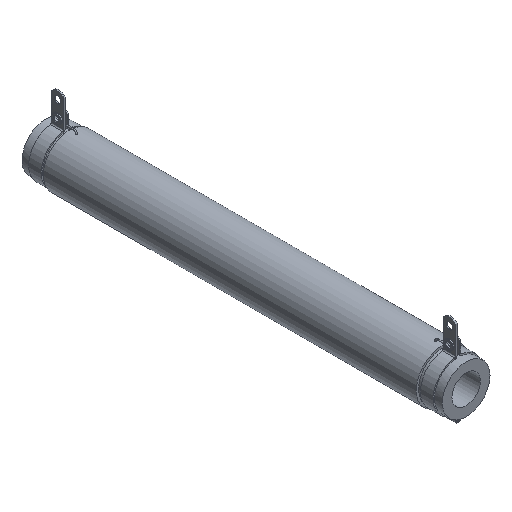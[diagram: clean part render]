
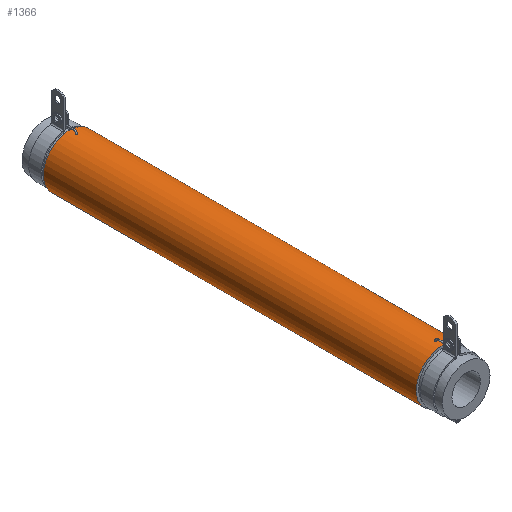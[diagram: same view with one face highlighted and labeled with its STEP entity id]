
A CAD part, isometric view. The second image highlights one B-rep face of the part: STEP entity #1366.
In plain terms, the highlighted cylindrical face has radius 16.5 mm (diameter 33 mm), a full revolution.
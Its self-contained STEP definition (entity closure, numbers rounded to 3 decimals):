
#147=B_SPLINE_CURVE_WITH_KNOTS($,3,(#2087,#2088,#2089,#2090,#2091,#2092,
#2093,#2094,#2095,#2096,#2097,#2098,#2099,#2100,#2101,#2102,#2103,#2104,
#2105,#2106,#2107,#2108,#2109,#2110,#2111,#2112,#2113,#2114,#2115,#2116,
#2117,#2118,#2119,#2120,#2121,#2122),.UNSPECIFIED.,.T.,.F.,(4,2,2,2,2,2,
2,2,2,2,2,2,2,2,2,2,2,4),(0.,0.016,0.031,0.047,
0.063,0.079,0.095,0.11,
0.126,0.141,0.157,0.172,
0.189,0.204,0.22,0.236,
0.245,0.254),.UNSPECIFIED.);
#148=B_SPLINE_CURVE_WITH_KNOTS($,3,(#2124,#2125,#2126,#2127,#2128,#2129,
#2130,#2131,#2132,#2133,#2134,#2135,#2136,#2137,#2138,#2139,#2140,#2141,
#2142,#2143,#2144,#2145,#2146,#2147,#2148,#2149,#2150,#2151,#2152,#2153,
#2154,#2155,#2156,#2157,#2158,#2159),.UNSPECIFIED.,.T.,.F.,(4,2,2,2,2,2,
2,2,2,2,2,2,2,2,2,2,2,4),(0.,0.016,0.031,0.047,
0.063,0.079,0.095,0.11,
0.126,0.141,0.157,0.172,
0.189,0.204,0.22,0.236,
0.245,0.254),.UNSPECIFIED.);
#177=FACE_BOUND($,#372,.T.);
#178=FACE_BOUND($,#373,.T.);
#179=FACE_BOUND($,#374,.T.);
#180=FACE_BOUND($,#375,.T.);
#251=CYLINDRICAL_SURFACE($,#1468,16.5);
#372=EDGE_LOOP($,(#918));
#373=EDGE_LOOP($,(#919));
#374=EDGE_LOOP($,(#920));
#375=EDGE_LOOP($,(#921));
#511=CIRCLE($,#1469,16.5);
#512=CIRCLE($,#1470,16.5);
#604=VERTEX_POINT($,#2086);
#605=VERTEX_POINT($,#2123);
#606=VERTEX_POINT($,#2160);
#607=VERTEX_POINT($,#2162);
#736=EDGE_CURVE($,#604,#604,#147,.T.);
#737=EDGE_CURVE($,#605,#605,#148,.T.);
#738=EDGE_CURVE($,#606,#606,#511,.T.);
#739=EDGE_CURVE($,#607,#607,#512,.T.);
#918=ORIENTED_EDGE($,*,*,#736,.T.);
#919=ORIENTED_EDGE($,*,*,#737,.T.);
#920=ORIENTED_EDGE($,*,*,#738,.T.);
#921=ORIENTED_EDGE($,*,*,#739,.F.);
#1366=ADVANCED_FACE($,(#177,#178,#179,#180),#251,.T.);
#1468=AXIS2_PLACEMENT_3D($,#2085,#1662,#1663);
#1469=AXIS2_PLACEMENT_3D($,#2161,#1664,#1665);
#1470=AXIS2_PLACEMENT_3D($,#2163,#1666,#1667);
#1662=DIRECTION('center_axis',(0.,1.,0.));
#1663=DIRECTION('ref_axis',(0.757,0.,0.653));
#1664=DIRECTION('center_axis',(0.,-1.,0.));
#1665=DIRECTION('ref_axis',(0.757,0.,0.653));
#1666=DIRECTION('center_axis',(0.,-1.,0.));
#1667=DIRECTION('ref_axis',(0.757,0.,0.653));
#2085=CARTESIAN_POINT('Origin',(21.645,61.577,19.693));
#2086=CARTESIAN_POINT('',(21.645,66.458,36.193));
#2087=CARTESIAN_POINT('Ctrl Pts',(21.645,66.458,36.193));
#2088=CARTESIAN_POINT('Ctrl Pts',(21.697,66.458,36.193));
#2089=CARTESIAN_POINT('Ctrl Pts',(21.748,66.448,36.192));
#2090=CARTESIAN_POINT('Ctrl Pts',(21.844,66.409,36.192));
#2091=CARTESIAN_POINT('Ctrl Pts',(21.888,66.38,36.191));
#2092=CARTESIAN_POINT('Ctrl Pts',(21.962,66.307,36.19));
#2093=CARTESIAN_POINT('Ctrl Pts',(21.992,66.263,36.189));
#2094=CARTESIAN_POINT('Ctrl Pts',(22.033,66.167,36.188));
#2095=CARTESIAN_POINT('Ctrl Pts',(22.044,66.115,36.188));
#2096=CARTESIAN_POINT('Ctrl Pts',(22.046,66.009,36.188));
#2097=CARTESIAN_POINT('Ctrl Pts',(22.036,65.956,36.188));
#2098=CARTESIAN_POINT('Ctrl Pts',(21.998,65.856,36.189));
#2099=CARTESIAN_POINT('Ctrl Pts',(21.969,65.811,36.19));
#2100=CARTESIAN_POINT('Ctrl Pts',(21.895,65.734,36.191));
#2101=CARTESIAN_POINT('Ctrl Pts',(21.852,65.704,36.191));
#2102=CARTESIAN_POINT('Ctrl Pts',(21.757,65.661,36.192));
#2103=CARTESIAN_POINT('Ctrl Pts',(21.706,65.65,36.193));
#2104=CARTESIAN_POINT('Ctrl Pts',(21.603,65.648,36.193));
#2105=CARTESIAN_POINT('Ctrl Pts',(21.553,65.657,36.192));
#2106=CARTESIAN_POINT('Ctrl Pts',(21.457,65.693,36.192));
#2107=CARTESIAN_POINT('Ctrl Pts',(21.413,65.721,36.191));
#2108=CARTESIAN_POINT('Ctrl Pts',(21.336,65.792,36.19));
#2109=CARTESIAN_POINT('Ctrl Pts',(21.305,65.835,36.189));
#2110=CARTESIAN_POINT('Ctrl Pts',(21.261,65.932,36.188));
#2111=CARTESIAN_POINT('Ctrl Pts',(21.248,65.984,36.188));
#2112=CARTESIAN_POINT('Ctrl Pts',(21.243,66.091,36.188));
#2113=CARTESIAN_POINT('Ctrl Pts',(21.251,66.144,36.188));
#2114=CARTESIAN_POINT('Ctrl Pts',(21.287,66.243,36.189));
#2115=CARTESIAN_POINT('Ctrl Pts',(21.315,66.289,36.189));
#2116=CARTESIAN_POINT('Ctrl Pts',(21.385,66.366,36.191));
#2117=CARTESIAN_POINT('Ctrl Pts',(21.428,66.398,36.191));
#2118=CARTESIAN_POINT('Ctrl Pts',(21.501,66.433,36.192));
#2119=CARTESIAN_POINT('Ctrl Pts',(21.529,66.442,36.192));
#2120=CARTESIAN_POINT('Ctrl Pts',(21.587,66.455,36.193));
#2121=CARTESIAN_POINT('Ctrl Pts',(21.616,66.458,36.193));
#2122=CARTESIAN_POINT('Ctrl Pts',(21.645,66.458,36.193));
#2123=CARTESIAN_POINT('',(21.645,291.696,36.193));
#2124=CARTESIAN_POINT('Ctrl Pts',(21.645,291.696,36.193));
#2125=CARTESIAN_POINT('Ctrl Pts',(21.593,291.696,36.193));
#2126=CARTESIAN_POINT('Ctrl Pts',(21.542,291.706,36.192));
#2127=CARTESIAN_POINT('Ctrl Pts',(21.446,291.746,36.192));
#2128=CARTESIAN_POINT('Ctrl Pts',(21.402,291.774,36.191));
#2129=CARTESIAN_POINT('Ctrl Pts',(21.328,291.848,36.19));
#2130=CARTESIAN_POINT('Ctrl Pts',(21.298,291.891,36.189));
#2131=CARTESIAN_POINT('Ctrl Pts',(21.257,291.988,36.188));
#2132=CARTESIAN_POINT('Ctrl Pts',(21.246,292.04,36.188));
#2133=CARTESIAN_POINT('Ctrl Pts',(21.244,292.146,36.188));
#2134=CARTESIAN_POINT('Ctrl Pts',(21.254,292.199,36.188));
#2135=CARTESIAN_POINT('Ctrl Pts',(21.293,292.298,36.189));
#2136=CARTESIAN_POINT('Ctrl Pts',(21.322,292.344,36.19));
#2137=CARTESIAN_POINT('Ctrl Pts',(21.395,292.42,36.191));
#2138=CARTESIAN_POINT('Ctrl Pts',(21.439,292.451,36.191));
#2139=CARTESIAN_POINT('Ctrl Pts',(21.534,292.493,36.192));
#2140=CARTESIAN_POINT('Ctrl Pts',(21.585,292.504,36.193));
#2141=CARTESIAN_POINT('Ctrl Pts',(21.687,292.507,36.193));
#2142=CARTESIAN_POINT('Ctrl Pts',(21.738,292.498,36.192));
#2143=CARTESIAN_POINT('Ctrl Pts',(21.834,292.461,36.192));
#2144=CARTESIAN_POINT('Ctrl Pts',(21.878,292.434,36.191));
#2145=CARTESIAN_POINT('Ctrl Pts',(21.954,292.362,36.19));
#2146=CARTESIAN_POINT('Ctrl Pts',(21.985,292.319,36.189));
#2147=CARTESIAN_POINT('Ctrl Pts',(22.03,292.223,36.188));
#2148=CARTESIAN_POINT('Ctrl Pts',(22.043,292.17,36.188));
#2149=CARTESIAN_POINT('Ctrl Pts',(22.047,292.064,36.188));
#2150=CARTESIAN_POINT('Ctrl Pts',(22.039,292.011,36.188));
#2151=CARTESIAN_POINT('Ctrl Pts',(22.003,291.911,36.189));
#2152=CARTESIAN_POINT('Ctrl Pts',(21.976,291.866,36.189));
#2153=CARTESIAN_POINT('Ctrl Pts',(21.905,291.788,36.191));
#2154=CARTESIAN_POINT('Ctrl Pts',(21.863,291.757,36.191));
#2155=CARTESIAN_POINT('Ctrl Pts',(21.789,291.722,36.192));
#2156=CARTESIAN_POINT('Ctrl Pts',(21.761,291.712,36.192));
#2157=CARTESIAN_POINT('Ctrl Pts',(21.704,291.699,36.193));
#2158=CARTESIAN_POINT('Ctrl Pts',(21.675,291.696,36.193));
#2159=CARTESIAN_POINT('Ctrl Pts',(21.645,291.696,36.193));
#2160=CARTESIAN_POINT('',(9.155,296.577,8.911));
#2161=CARTESIAN_POINT('Origin',(21.645,296.577,19.693));
#2162=CARTESIAN_POINT('',(9.155,61.577,8.911));
#2163=CARTESIAN_POINT('Origin',(21.645,61.577,19.693));
